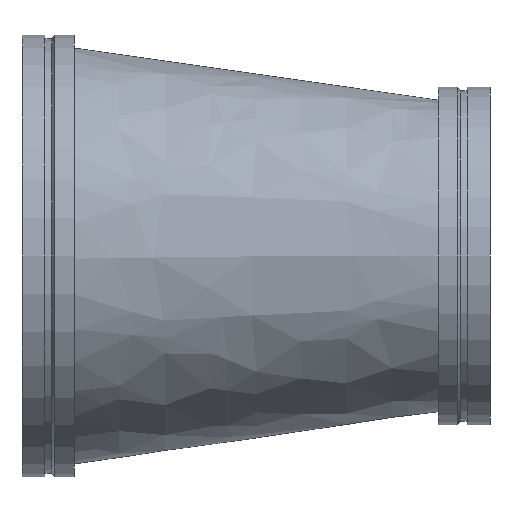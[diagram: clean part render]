
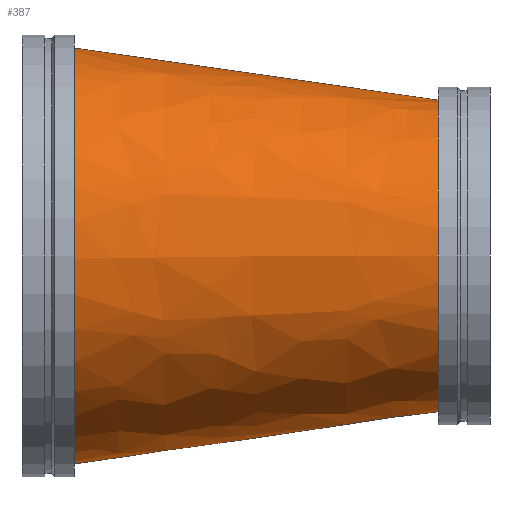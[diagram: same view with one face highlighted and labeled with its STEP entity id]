
A CAD part, front view. The second image highlights one B-rep face of the part: STEP entity #387.
In plain terms, the highlighted free-form (B-spline) face has degree [1, 2] with [2, 9] control points.
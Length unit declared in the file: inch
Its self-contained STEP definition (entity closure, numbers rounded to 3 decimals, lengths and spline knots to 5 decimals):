
#46=B_SPLINE_CURVE_WITH_KNOTS('',1,(#747,#748),.UNSPECIFIED.,.F.,.F.,(2,
2),(-1.78707,-0.00275),.UNSPECIFIED.);
#48=(
BOUNDED_SURFACE()
B_SPLINE_SURFACE(1,2,((#729,#730,#731,#732,#733,#734,#735,#736,#737),(#738,
#739,#740,#741,#742,#743,#744,#745,#746)),.UNSPECIFIED.,.F.,.T.,.F.)
B_SPLINE_SURFACE_WITH_KNOTS((2,2),(3,2,2,2,3),(-0.14005,1.89005),
(-3.14159,-1.5708,0.,1.5708,3.14159),
 .UNSPECIFIED.)
GEOMETRIC_REPRESENTATION_ITEM()
RATIONAL_B_SPLINE_SURFACE(((1.,0.707,1.,0.707,1.,
0.707,1.,0.707,1.),(1.,0.707,1.,0.707,
1.,0.707,1.,0.707,1.)))
REPRESENTATION_ITEM('')
SURFACE()
);
#98=FACE_OUTER_BOUND('',#120,.T.);
#120=EDGE_LOOP('',(#321,#322,#323,#324,#325,#326));
#129=CIRCLE('',#415,12.);
#130=CIRCLE('',#416,12.);
#153=CIRCLE('',#450,16.);
#154=CIRCLE('',#451,16.);
#166=VERTEX_POINT('',#628);
#167=VERTEX_POINT('',#629);
#190=VERTEX_POINT('',#695);
#191=VERTEX_POINT('',#696);
#203=EDGE_CURVE('',#166,#167,#129,.T.);
#204=EDGE_CURVE('',#167,#166,#130,.T.);
#235=EDGE_CURVE('',#190,#191,#153,.T.);
#236=EDGE_CURVE('',#191,#190,#154,.T.);
#243=EDGE_CURVE('',#167,#191,#46,.T.);
#321=ORIENTED_EDGE('',*,*,#203,.T.);
#322=ORIENTED_EDGE('',*,*,#243,.T.);
#323=ORIENTED_EDGE('',*,*,#236,.T.);
#324=ORIENTED_EDGE('',*,*,#235,.T.);
#325=ORIENTED_EDGE('',*,*,#243,.F.);
#326=ORIENTED_EDGE('',*,*,#204,.T.);
#387=ADVANCED_FACE('',(#98),#48,.F.);
#415=AXIS2_PLACEMENT_3D('',#630,#486,#487);
#416=AXIS2_PLACEMENT_3D('',#631,#488,#489);
#450=AXIS2_PLACEMENT_3D('',#697,#564,#565);
#451=AXIS2_PLACEMENT_3D('',#698,#566,#567);
#486=DIRECTION('center_axis',(-1.,0.,0.));
#487=DIRECTION('ref_axis',(0.,-1.,0.));
#488=DIRECTION('center_axis',(-1.,0.,0.));
#489=DIRECTION('ref_axis',(0.,-1.,0.));
#564=DIRECTION('center_axis',(1.,0.,0.));
#565=DIRECTION('ref_axis',(0.,1.,0.));
#566=DIRECTION('center_axis',(1.,0.,0.));
#567=DIRECTION('ref_axis',(0.,1.,0.));
#628=CARTESIAN_POINT('',(32.,-16.,0.));
#629=CARTESIAN_POINT('',(32.,-4.23538,11.99769));
#630=CARTESIAN_POINT('Origin',(32.,-4.,0.));
#631=CARTESIAN_POINT('Origin',(32.,-4.,0.));
#695=CARTESIAN_POINT('',(4.,16.,0.));
#696=CARTESIAN_POINT('',(4.,-0.31385,15.99692));
#697=CARTESIAN_POINT('Origin',(4.,0.,0.));
#698=CARTESIAN_POINT('Origin',(4.,0.,0.));
#729=CARTESIAN_POINT('Ctrl Pts',(1.75912,0.,
16.31699));
#730=CARTESIAN_POINT('Ctrl Pts',(-0.48176,-16.,16.31699));
#731=CARTESIAN_POINT('Ctrl Pts',(-0.48176,-16.,0.));
#732=CARTESIAN_POINT('Ctrl Pts',(-0.48176,-16.,-16.31699));
#733=CARTESIAN_POINT('Ctrl Pts',(1.75912,0.,
-16.31699));
#734=CARTESIAN_POINT('Ctrl Pts',(4.,16.,-16.31699));
#735=CARTESIAN_POINT('Ctrl Pts',(4.,16.,0.));
#736=CARTESIAN_POINT('Ctrl Pts',(4.,16.,16.31699));
#737=CARTESIAN_POINT('Ctrl Pts',(1.75912,0.,
16.31699));
#738=CARTESIAN_POINT('Ctrl Pts',(33.61599,-4.46171,11.76688));
#739=CARTESIAN_POINT('Ctrl Pts',(32.,-16.,11.76688));
#740=CARTESIAN_POINT('Ctrl Pts',(32.,-16.,0.));
#741=CARTESIAN_POINT('Ctrl Pts',(32.,-16.,-11.76688));
#742=CARTESIAN_POINT('Ctrl Pts',(33.61599,-4.46171,-11.76688));
#743=CARTESIAN_POINT('Ctrl Pts',(35.23199,7.07657,-11.76688));
#744=CARTESIAN_POINT('Ctrl Pts',(35.23199,7.07657,0.));
#745=CARTESIAN_POINT('Ctrl Pts',(35.23199,7.07657,11.76688));
#746=CARTESIAN_POINT('Ctrl Pts',(33.61599,-4.46171,11.76688));
#747=CARTESIAN_POINT('Ctrl Pts',(32.,-4.23538,11.99769));
#748=CARTESIAN_POINT('Ctrl Pts',(4.,-0.31385,15.99692));
